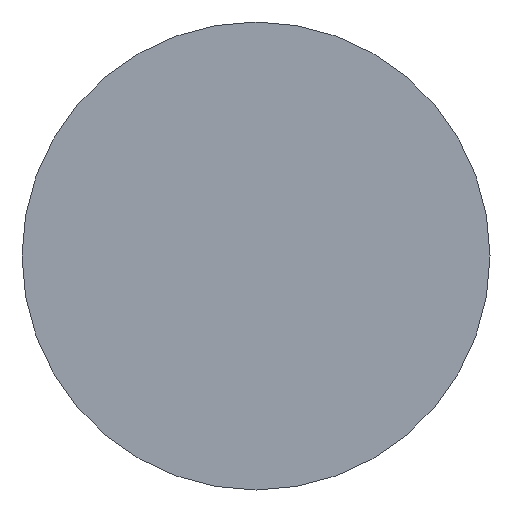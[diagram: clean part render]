
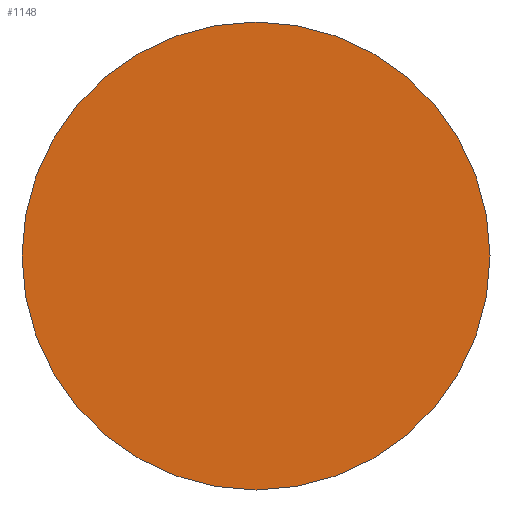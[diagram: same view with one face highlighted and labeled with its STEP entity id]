
A CAD part, front view. The second image highlights one B-rep face of the part: STEP entity #1148.
In plain terms, the highlighted planar face has unit normal (0, -1, 0).
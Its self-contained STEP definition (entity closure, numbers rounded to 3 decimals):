
#30 = AXIS2_PLACEMENT_3D ( 'NONE', #441, #2054, #1373 ) ;
#131 = CARTESIAN_POINT ( 'NONE',  ( 0., 0., 0. ) ) ;
#152 = DIRECTION ( 'NONE',  ( 0., 0., 1. ) ) ;
#162 = ORIENTED_EDGE ( 'NONE', *, *, #543, .F. ) ;
#313 = AXIS2_PLACEMENT_3D ( 'NONE', #131, #1075, #629 ) ;
#441 = CARTESIAN_POINT ( 'NONE',  ( 0., 0., 0. ) ) ;
#543 = EDGE_CURVE ( 'NONE', #1625, #1726, #562, .T. ) ;
#562 = CIRCLE ( 'NONE', #313, 150. ) ;
#605 = EDGE_LOOP ( 'NONE', ( #162, #1617 ) ) ;
#629 = DIRECTION ( 'NONE',  ( 0., 0., 1. ) ) ;
#631 = CIRCLE ( 'NONE', #30, 150. ) ;
#1075 = DIRECTION ( 'NONE',  ( 0., 1., 0. ) ) ;
#1148 = ADVANCED_FACE ( 'NONE', ( #1636 ), #1756, .F. ) ;
#1260 = CARTESIAN_POINT ( 'NONE',  ( 0., 0., 0. ) ) ;
#1363 = AXIS2_PLACEMENT_3D ( 'NONE', #1260, #1923, #152 ) ;
#1373 = DIRECTION ( 'NONE',  ( 0., 0., 1. ) ) ;
#1617 = ORIENTED_EDGE ( 'NONE', *, *, #1672, .F. ) ;
#1625 = VERTEX_POINT ( 'NONE', #1710 ) ;
#1636 = FACE_OUTER_BOUND ( 'NONE', #605, .T. ) ;
#1672 = EDGE_CURVE ( 'NONE', #1726, #1625, #631, .T. ) ;
#1710 = CARTESIAN_POINT ( 'NONE',  ( 0., 0., -150. ) ) ;
#1726 = VERTEX_POINT ( 'NONE', #1883 ) ;
#1756 = PLANE ( 'NONE',  #1363 ) ;
#1883 = CARTESIAN_POINT ( 'NONE',  ( 0., 0., 150. ) ) ;
#1923 = DIRECTION ( 'NONE',  ( 0., 1., 0. ) ) ;
#2054 = DIRECTION ( 'NONE',  ( 0., 1., 0. ) ) ;
